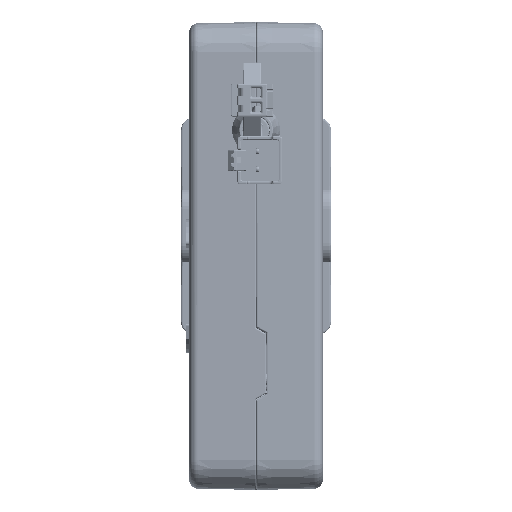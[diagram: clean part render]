
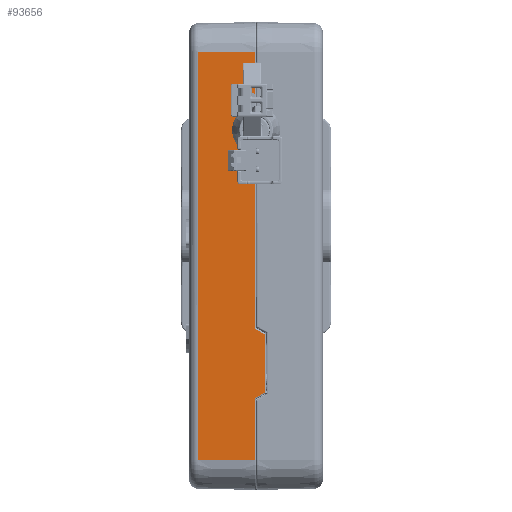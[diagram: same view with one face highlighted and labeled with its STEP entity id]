
A CAD part, left-side view. The second image highlights one B-rep face of the part: STEP entity #93656.
In plain terms, the highlighted planar face has unit normal (-1, 0.018, 0).
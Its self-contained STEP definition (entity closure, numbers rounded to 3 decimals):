
#25761=DIRECTION('',(0.,0.,-1.));
#25762=VECTOR('',#25761,9.963);
#25763=CARTESIAN_POINT('',(-38.996,0.239,
-24.037));
#25764=LINE('',#25763,#25762);
#25765=DIRECTION('',(0.,0.,1.));
#25766=VECTOR('',#25765,68.);
#25767=CARTESIAN_POINT('',(-38.832,9.651,
-34.));
#25768=LINE('',#25767,#25766);
#25769=DIRECTION('',(-0.017,-1.,
0.));
#25770=VECTOR('',#25769,9.413);
#25771=CARTESIAN_POINT('',(-38.832,9.651,34.));
#25772=LINE('',#25771,#25770);
#25773=DIRECTION('',(0.,0.,-1.));
#25774=VECTOR('',#25773,9.809);
#25775=CARTESIAN_POINT('',(-38.996,0.239,
34.));
#25776=LINE('',#25775,#25774);
#25777=DIRECTION('',(0.,0.,-1.));
#25778=VECTOR('',#25777,29.628);
#25779=CARTESIAN_POINT('',(-38.996,0.239,
17.809));
#25780=LINE('',#25779,#25778);
#25781=CARTESIAN_POINT('',(-38.996,0.239,
-11.82));
#25782=CARTESIAN_POINT('',(-38.996,0.239,
-11.865));
#25783=CARTESIAN_POINT('',(-38.996,0.226,
-11.951));
#25784=CARTESIAN_POINT('',(-38.997,0.18,
-12.058));
#25785=CARTESIAN_POINT('',(-38.998,0.112,
-12.152));
#25786=CARTESIAN_POINT('',(-38.999,0.043,
-12.208));
#25787=CARTESIAN_POINT('',(-39.,0.002,
-12.231));
#25789=DIRECTION('',(-0.015,-0.866,-0.5));
#25790=VECTOR('',#25789,1.64);
#25791=CARTESIAN_POINT('',(-39.,0.002,
-12.231));
#25792=LINE('',#25791,#25790);
#25793=CARTESIAN_POINT('',(-39.025,-1.418,
-13.051));
#25794=CARTESIAN_POINT('',(-39.025,-1.419,
-13.052));
#25795=CARTESIAN_POINT('',(-39.025,-1.421,
-13.053));
#25796=CARTESIAN_POINT('',(-39.025,-1.423,
-13.055));
#25797=CARTESIAN_POINT('',(-39.025,-1.425,
-13.057));
#25798=CARTESIAN_POINT('',(-39.025,-1.427,
-13.06));
#25799=CARTESIAN_POINT('',(-39.025,-1.429,
-13.064));
#25800=CARTESIAN_POINT('',(-39.025,-1.43,
-13.068));
#25801=CARTESIAN_POINT('',(-39.025,-1.431,
-13.071));
#25802=CARTESIAN_POINT('',(-39.025,-1.431,
-13.072));
#25804=DIRECTION('',(0.,0.,-1.));
#25805=VECTOR('',#25804,9.711);
#25806=CARTESIAN_POINT('',(-39.025,-1.431,
-13.072));
#25807=LINE('',#25806,#25805);
#25808=CARTESIAN_POINT('',(-39.025,-1.431,
-22.784));
#25809=CARTESIAN_POINT('',(-39.025,-1.431,
-22.785));
#25810=CARTESIAN_POINT('',(-39.025,-1.43,
-22.787));
#25811=CARTESIAN_POINT('',(-39.025,-1.43,
-22.79));
#25812=CARTESIAN_POINT('',(-39.025,-1.429,
-22.793));
#25813=CARTESIAN_POINT('',(-39.025,-1.427,
-22.796));
#25814=CARTESIAN_POINT('',(-39.025,-1.425,
-22.799));
#25815=CARTESIAN_POINT('',(-39.025,-1.422,
-22.802));
#25816=CARTESIAN_POINT('',(-39.025,-1.42,
-22.804));
#25817=CARTESIAN_POINT('',(-39.025,-1.418,
-22.805));
#25819=DIRECTION('',(0.015,0.866,-0.5));
#25820=VECTOR('',#25819,1.64);
#25821=CARTESIAN_POINT('',(-39.025,-1.418,
-22.805));
#25822=LINE('',#25821,#25820);
#25823=CARTESIAN_POINT('',(-39.,0.002,
-23.625));
#25824=CARTESIAN_POINT('',(-39.,0.025,
-23.638));
#25825=CARTESIAN_POINT('',(-38.999,0.066,
-23.667));
#25826=CARTESIAN_POINT('',(-38.998,0.115,
-23.714));
#25827=CARTESIAN_POINT('',(-38.997,0.153,
-23.761));
#25828=CARTESIAN_POINT('',(-38.997,0.183,
-23.81));
#25829=CARTESIAN_POINT('',(-38.997,0.207,
-23.86));
#25830=CARTESIAN_POINT('',(-38.996,0.224,
-23.914));
#25831=CARTESIAN_POINT('',(-38.996,0.236,
-23.971));
#25832=CARTESIAN_POINT('',(-38.996,0.239,
-24.014));
#25833=CARTESIAN_POINT('',(-38.996,0.239,
-24.037));
#25845=DIRECTION('',(-0.017,-1.,0.));
#25846=VECTOR('',#25845,9.413);
#25847=CARTESIAN_POINT('',(-38.832,9.651,
-34.));
#25848=LINE('',#25847,#25846);
#26073=CARTESIAN_POINT('',(-38.996,0.239,
17.809));
#26074=CARTESIAN_POINT('',(-38.992,0.485,
17.827));
#26075=CARTESIAN_POINT('',(-38.983,0.959,
17.917));
#26076=CARTESIAN_POINT('',(-38.971,1.643,
18.219));
#26077=CARTESIAN_POINT('',(-38.961,2.234,
18.666));
#26078=CARTESIAN_POINT('',(-38.953,2.709,
19.238));
#26079=CARTESIAN_POINT('',(-38.947,3.04,
19.903));
#26080=CARTESIAN_POINT('',(-38.944,3.21,
20.626));
#26081=CARTESIAN_POINT('',(-38.944,3.211,
21.369));
#26082=CARTESIAN_POINT('',(-38.947,3.041,
22.093));
#26083=CARTESIAN_POINT('',(-38.953,2.711,
22.759));
#26084=CARTESIAN_POINT('',(-38.961,2.237,
23.331));
#26085=CARTESIAN_POINT('',(-38.971,1.646,
23.78));
#26086=CARTESIAN_POINT('',(-38.983,0.961,
24.083));
#26087=CARTESIAN_POINT('',(-38.992,0.486,
24.173));
#26088=CARTESIAN_POINT('',(-38.996,0.239,
24.191));
#37762=CARTESIAN_POINT('',(-38.832,9.651,34.));
#37763=VERTEX_POINT('',#37762);
#37768=CARTESIAN_POINT('',(-38.832,9.651,
-34.));
#37769=VERTEX_POINT('',#37768);
#40926=CARTESIAN_POINT('',(-38.996,0.239,-34.));
#40927=VERTEX_POINT('',#40926);
#40930=CARTESIAN_POINT('',(-38.996,0.239,
-24.037));
#40931=VERTEX_POINT('',#40930);
#40933=VERTEX_POINT('',#25823);
#40936=CARTESIAN_POINT('',(-39.025,-1.418,
-22.805));
#40937=VERTEX_POINT('',#40936);
#40939=VERTEX_POINT('',#25808);
#40942=CARTESIAN_POINT('',(-39.025,-1.431,
-13.072));
#40943=VERTEX_POINT('',#40942);
#40945=VERTEX_POINT('',#25793);
#40948=CARTESIAN_POINT('',(-39.,0.002,
-12.231));
#40949=VERTEX_POINT('',#40948);
#40951=VERTEX_POINT('',#25781);
#40954=CARTESIAN_POINT('',(-38.996,0.239,
17.809));
#40955=VERTEX_POINT('',#40954);
#41081=CARTESIAN_POINT('',(-38.996,0.239,34.));
#41083=VERTEX_POINT('',#41081);
#41084=CARTESIAN_POINT('',(-38.996,0.239,
24.191));
#41085=VERTEX_POINT('',#41084);
#93625=CARTESIAN_POINT('',(-39.,0.01,-41.2));
#93626=DIRECTION('',(-1.,0.017,0.));
#93627=DIRECTION('',(0.,0.,-1.));
#93628=AXIS2_PLACEMENT_3D('',#93625,#93626,#93627);
#93629=PLANE('',#93628);
#93630=ORIENTED_EDGE('',*,*,#90294,.T.);
#93632=ORIENTED_EDGE('',*,*,#93631,.F.);
#93633=ORIENTED_EDGE('',*,*,#91374,.T.);
#93635=ORIENTED_EDGE('',*,*,#93634,.T.);
#93637=ORIENTED_EDGE('',*,*,#93636,.T.);
#93639=ORIENTED_EDGE('',*,*,#93638,.F.);
#93641=ORIENTED_EDGE('',*,*,#93640,.T.);
#93643=ORIENTED_EDGE('',*,*,#93642,.T.);
#93645=ORIENTED_EDGE('',*,*,#93644,.T.);
#93647=ORIENTED_EDGE('',*,*,#93646,.T.);
#93649=ORIENTED_EDGE('',*,*,#93648,.T.);
#93651=ORIENTED_EDGE('',*,*,#93650,.T.);
#93652=ORIENTED_EDGE('',*,*,#93618,.T.);
#93653=ORIENTED_EDGE('',*,*,#90279,.T.);
#93654=EDGE_LOOP('',(#93630,#93632,#93633,#93635,#93637,#93639,#93641,#93643,
#93645,#93647,#93649,#93651,#93652,#93653));
#93655=FACE_OUTER_BOUND('',#93654,.F.);
#93656=ADVANCED_FACE('',(#93655),#93629,.T.);
#25788=B_SPLINE_CURVE_WITH_KNOTS('',3,(#25781,#25782,#25783,#25784,#25785,
#25786,#25787),.UNSPECIFIED.,.F.,.F.,(4,1,1,1,4),(0.,0.25,0.5,0.75,
1.),.UNSPECIFIED.);
#25803=B_SPLINE_CURVE_WITH_KNOTS('',3,(#25793,#25794,#25795,#25796,#25797,
#25798,#25799,#25800,#25801,#25802),.UNSPECIFIED.,.F.,.F.,(4,1,1,1,1,1,1,4),(
0.,0.143,0.286,0.429,0.571,
0.714,0.857,1.),.UNSPECIFIED.);
#25818=B_SPLINE_CURVE_WITH_KNOTS('',3,(#25808,#25809,#25810,#25811,#25812,
#25813,#25814,#25815,#25816,#25817),.UNSPECIFIED.,.F.,.F.,(4,1,1,1,1,1,1,4),(
0.,0.143,0.286,0.429,0.571,
0.714,0.857,1.),.UNSPECIFIED.);
#25834=B_SPLINE_CURVE_WITH_KNOTS('',3,(#25823,#25824,#25825,#25826,#25827,
#25828,#25829,#25830,#25831,#25832,#25833),.UNSPECIFIED.,.F.,.F.,(4,1,1,1,1,1,1,
1,4),(0.,0.125,0.25,0.375,0.5,0.625,0.75,0.875,1.),
.UNSPECIFIED.);
#26089=B_SPLINE_CURVE_WITH_KNOTS('',3,(#26073,#26074,#26075,#26076,#26077,
#26078,#26079,#26080,#26081,#26082,#26083,#26084,#26085,#26086,#26087,#26088),
.UNSPECIFIED.,.F.,.F.,(4,1,1,1,1,1,1,1,1,1,1,1,1,4),(0.,0.077,
0.154,0.231,0.308,0.385,
0.462,0.538,0.615,0.692,
0.769,0.846,0.923,1.),.UNSPECIFIED.);
#90279=EDGE_CURVE('',#40933,#40931,#25834,.T.);
#90294=EDGE_CURVE('',#40931,#40927,#25764,.T.);
#91374=EDGE_CURVE('',#37769,#37763,#25768,.T.);
#93618=EDGE_CURVE('',#40937,#40933,#25822,.T.);
#93631=EDGE_CURVE('',#37769,#40927,#25848,.T.);
#93634=EDGE_CURVE('',#37763,#41083,#25772,.T.);
#93636=EDGE_CURVE('',#41083,#41085,#25776,.T.);
#93638=EDGE_CURVE('',#40955,#41085,#26089,.T.);
#93640=EDGE_CURVE('',#40955,#40951,#25780,.T.);
#93642=EDGE_CURVE('',#40951,#40949,#25788,.T.);
#93644=EDGE_CURVE('',#40949,#40945,#25792,.T.);
#93646=EDGE_CURVE('',#40945,#40943,#25803,.T.);
#93648=EDGE_CURVE('',#40943,#40939,#25807,.T.);
#93650=EDGE_CURVE('',#40939,#40937,#25818,.T.);
